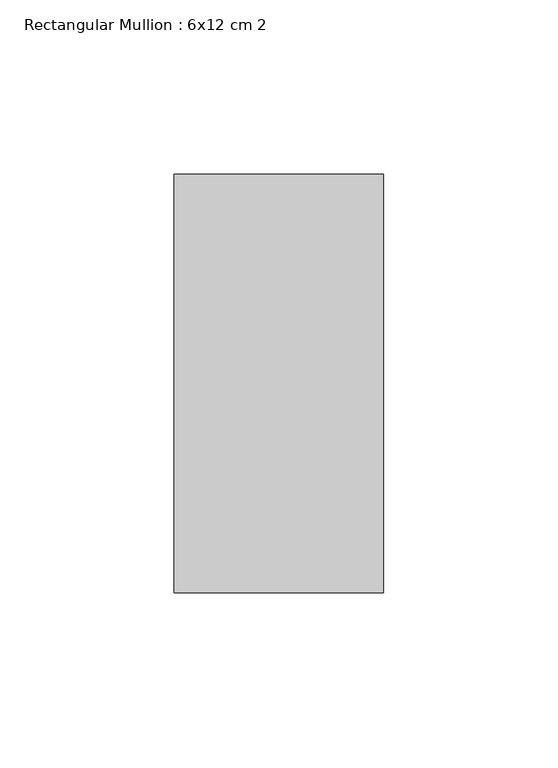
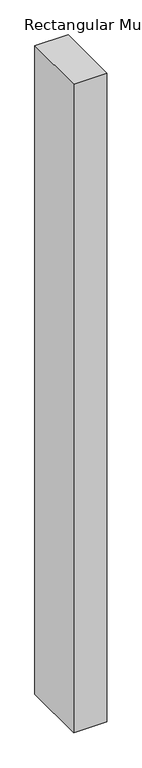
"""IFC4 building model written with IfcOpenShell, lengths in millimetres: member geometry, Rectangular Mullion : 6x12 cm 2."""

from ifc_helpers import new_model, si_unit, frame, origin, place, context, project, spatial, polyline, outline, extrude, source, transform, mapped, element, save


def rectangular_mullion_6x12_cm_2_543ce3dd(model_context):
    return source(origin(), model_context, "Body", "SweptSolid", [
        extrude(outline(polyline([(0.0, 205.0), (0.0, 85.0), (-60.0, 85.0), (-60.0, 205.0), (0.0, 205.0)])), frame((0.0, 0.0, -1230.0), z_axis=(0.0, 0.0, 1.0), x_axis=(1.0, 0.0, 0.0)), (0.0, 0.0, 1.0), 1230.0),
    ])


if __name__ == "__main__":
    model = new_model("IFC4")
    model_context = context("Model", 3, world=origin())
    ifc_project = project(units=[si_unit("LENGTHUNIT", "METRE", prefix="MILLI")], contexts=[model_context])
    site = spatial("IfcSite", under=ifc_project)
    building = spatial("IfcBuilding", under=site)
    placement = place(None, origin())
    rectangular_mullion_6x12_cm_2_shape = rectangular_mullion_6x12_cm_2_543ce3dd(model_context)
    element("IfcMember", 1, ObjectType="Rectangular Mullion : 6x12 cm 2", at=placement, inside=building, context=model_context, shape_type="MappedRepresentation", body=[
        mapped(rectangular_mullion_6x12_cm_2_shape, transform((0.0, 0.0, 0.0), x_axis=(1.0, 0.0, 0.0), y_axis=(0.0, 1.0, 0.0), z_axis=(0.0, 0.0, 1.0))),
    ])
    save(model, "model.ifc")
